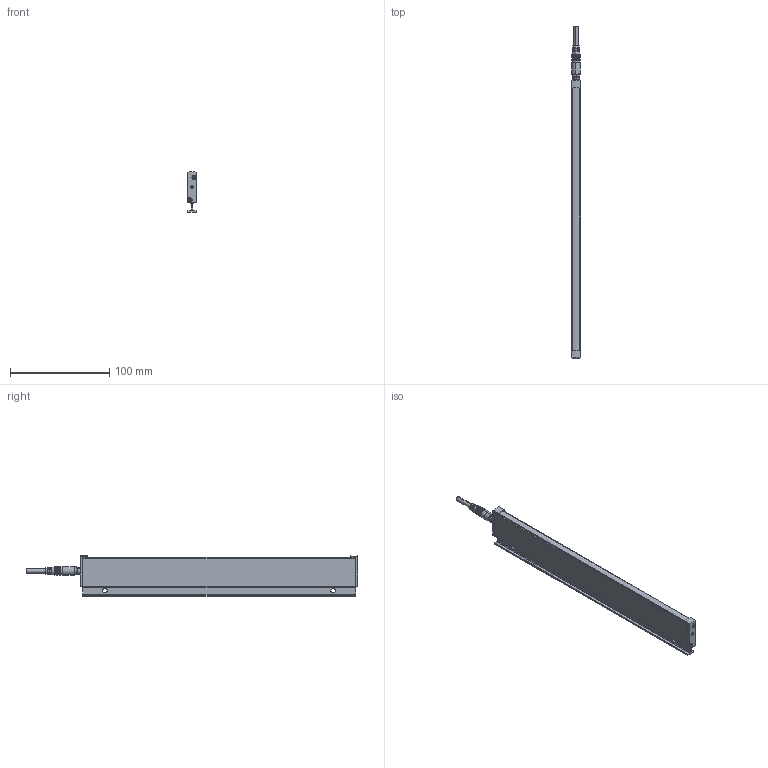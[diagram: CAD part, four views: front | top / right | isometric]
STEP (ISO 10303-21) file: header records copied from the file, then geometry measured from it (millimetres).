
FILE_DESCRIPTION (( 'STEP AP214' ), '1' );
FILE_NAME ('ILG-L-K2-0280mm.STEP', '2017-07-11T07:28:07', ( '' ), ( '' ), 'SwSTEP 2.0', 'SolidWorks 2016', '' );
FILE_SCHEMA (( 'AUTOMOTIVE_DESIGN' ));
Length unit declared in the file: millimetre
Products named in the file (1): ILG-L-K2-0280mm
Bounding box: 9 x 334.5 x 40.71 mm (x, y, z)
Surface area: 59778 mm2 (no closed solid volume)
Topology: 0 solids, 13 shells, 677 faces, 1774 edges, 1127 vertices
Faces by surface type: cylinder 284, plane 255, cone 90, bspline 32, torus 16
Entity records: 30436 total; most frequent: CARTESIAN_POINT 6465, ORIENTED_EDGE 3501, DIRECTION 3378, EDGE_CURVE 1758, AXIS2_PLACEMENT_3D 1289, VERTEX_POINT 1127, LINE 800, VECTOR 800
